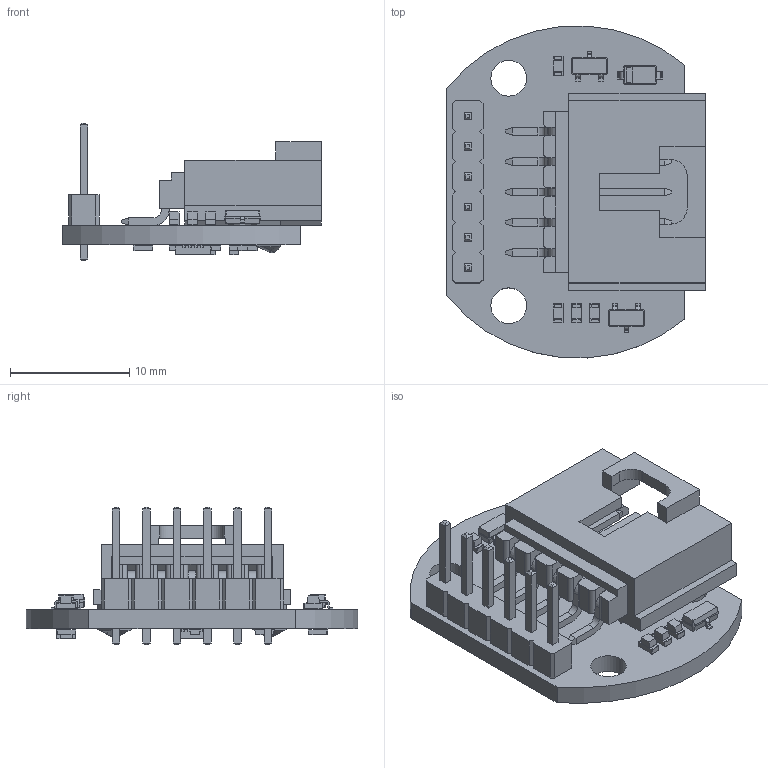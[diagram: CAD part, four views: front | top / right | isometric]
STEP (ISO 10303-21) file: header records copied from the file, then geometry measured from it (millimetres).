
FILE_DESCRIPTION(('KiCad electronic assembly'),'2;1');
FILE_NAME('mag-encoder.step','2024-10-24T19:59:50',('Pcbnew'),('Kicad'), 'Open CASCADE STEP processor 7.6','KiCad to STEP converter','Unknown' );
FILE_SCHEMA(('AUTOMOTIVE_DESIGN { 1 0 10303 214 1 1 1 1 }'));
Length unit declared in the file: millimetre
Products named in the file (18): mag-encoder 1; LED_0603_1608Metric; SOT-23; SOT_23; Molex-015912055; 015912055; PinHeader_1x06_P2.54mm_Vertical; PinHeader_1x06_P254mm_Vertical; D_SOD-123; D_SOD_123; R_0603_1608Metric; C_0603_1608Metric; QFN-16-1EP_3x3mm_P0.5mm_EP1.7x1.7mm; mag-encoder_PCB
Assembly tree (29 placements, depth 3):
  mag-encoder 1
    LED_0603_1608Metric  x4
      LED_0603_1608Metric
    SOT-23  x2
      SOT_23
    Molex-015912055
      015912055
    PinHeader_1x06_P2.54mm_Vertical
      PinHeader_1x06_P254mm_Vertical
    D_SOD-123
      D_SOD_123
    R_0603_1608Metric  x7
      R_0603_1608Metric
    C_0603_1608Metric  x3
      C_0603_1608Metric
    QFN-16-1EP_3x3mm_P0.5mm_EP1.7x1.7mm
      QFN-16-1EP_3x3mm_P0.5mm_EP1.7x1.7mm
    mag-encoder_PCB
Bounding box: 21.65 x 27.79 x 11.54 mm (x, y, z)
Volume: 1501.8 mm3; surface area: 2918.4 mm2
Topology: 26 solids, 26 shells, 1211 faces, 3158 edges, 2046 vertices
Faces by surface type: plane 917, cylinder 212, bspline 82
Full cylindrical faces by diameter (mm): 0.2 x1, 1 x6, 3 x2, 3.4 x2
Entity records: 27292 total; most frequent: CARTESIAN_POINT 4557, ORIENTED_EDGE 3998, DIRECTION 3645, EDGE_CURVE 1999, LINE 1745, VECTOR 1745, VERTEX_POINT 1266, AXIS2_PLACEMENT_3D 950
